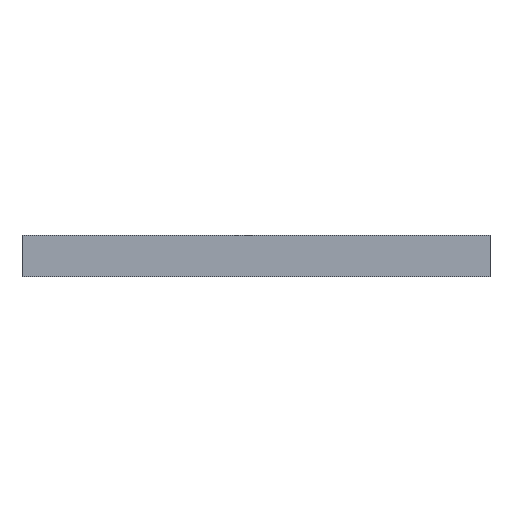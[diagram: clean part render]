
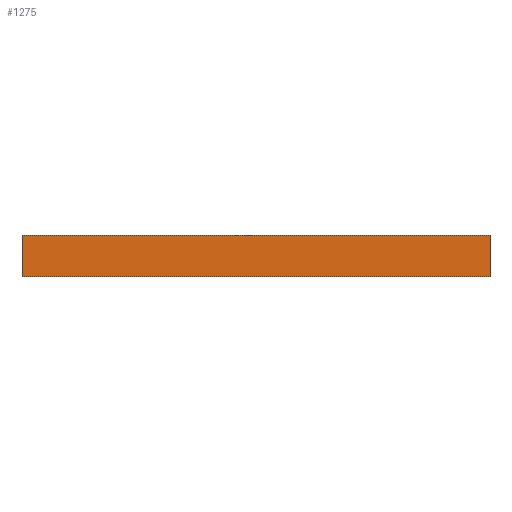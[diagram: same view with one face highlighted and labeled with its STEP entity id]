
A CAD part, front view. The second image highlights one B-rep face of the part: STEP entity #1275.
In plain terms, the highlighted planar face has unit normal (0, -1, 0).
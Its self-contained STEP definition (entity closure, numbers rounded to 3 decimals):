
#19=LINE('',#2217,#32);
#20=LINE('',#2220,#33);
#21=LINE('',#2222,#34);
#22=LINE('',#2223,#35);
#32=VECTOR('',#1881,20.);
#33=VECTOR('',#1884,225.);
#34=VECTOR('',#1885,225.);
#35=VECTOR('',#1886,20.);
#61=PLANE('',#1478);
#296=FACE_OUTER_BOUND('',#459,.T.);
#459=EDGE_LOOP('',(#1049,#1050,#1051,#1052));
#754=VERTEX_POINT('',#2213);
#755=VERTEX_POINT('',#2215);
#756=VERTEX_POINT('',#2219);
#757=VERTEX_POINT('',#2221);
#876=EDGE_CURVE('',#754,#755,#19,.T.);
#877=EDGE_CURVE('',#756,#754,#20,.T.);
#878=EDGE_CURVE('',#757,#755,#21,.T.);
#879=EDGE_CURVE('',#756,#757,#22,.T.);
#1049=ORIENTED_EDGE('',*,*,#877,.T.);
#1050=ORIENTED_EDGE('',*,*,#876,.T.);
#1051=ORIENTED_EDGE('',*,*,#878,.F.);
#1052=ORIENTED_EDGE('',*,*,#879,.F.);
#1275=ADVANCED_FACE('',(#296),#61,.T.);
#1478=AXIS2_PLACEMENT_3D('',#2218,#1882,#1883);
#1881=DIRECTION('',(0.,0.,1.));
#1882=DIRECTION('center_axis',(0.,-1.,0.));
#1883=DIRECTION('ref_axis',(1.,0.,0.));
#1884=DIRECTION('',(1.,0.,0.));
#1885=DIRECTION('',(1.,0.,0.));
#1886=DIRECTION('',(0.,0.,1.));
#2213=CARTESIAN_POINT('',(112.5,0.,0.));
#2215=CARTESIAN_POINT('',(112.5,0.,20.));
#2217=CARTESIAN_POINT('',(112.5,0.,0.));
#2218=CARTESIAN_POINT('Origin',(-112.5,0.,0.));
#2219=CARTESIAN_POINT('',(-112.5,0.,0.));
#2220=CARTESIAN_POINT('',(-112.5,0.,0.));
#2221=CARTESIAN_POINT('',(-112.5,0.,20.));
#2222=CARTESIAN_POINT('',(-112.5,0.,20.));
#2223=CARTESIAN_POINT('',(-112.5,0.,0.));
